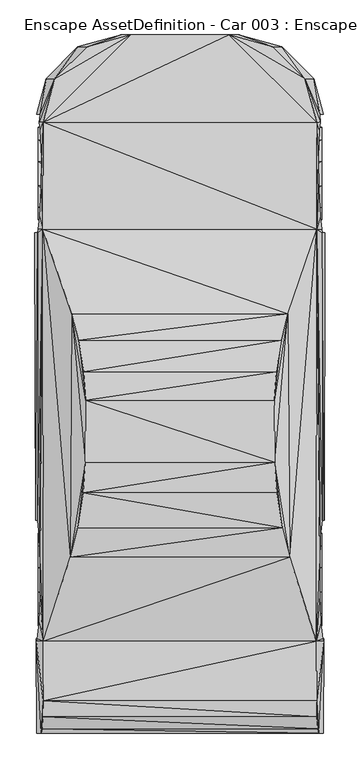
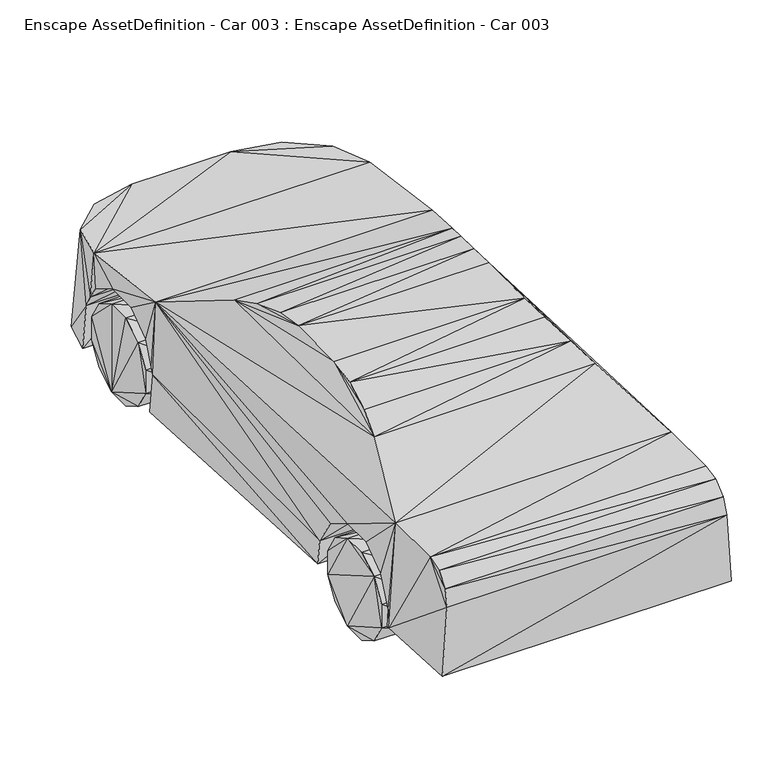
"""IFC4 building model written with IfcOpenShell, lengths in millimetres: geographic element geometry, Enscape AssetDefinition - Car 003 : Enscape AssetDefinition - Car 003."""

from ifc_helpers import new_model, si_unit, origin, place, context, project, spatial, faceted_brep, source, transform, mapped, element, save


def enscape_assetdefinition_car_003_enscape_assetdefinition_car_cb408bfd(model_context):
    return source(origin(), model_context, "Body", "Brep", [
        faceted_brep([(975.2274752, -1140.8143044, 234.1980785), (975.2274752, -1543.1392193, 636.5229487), (975.2274752, -1690.400362, 86.9370252), (975.2274752, -1373.0965853, 636.5229487), (731.5111756, -1543.1392193, 636.5229487), (975.2274752, -1690.4002428, 551.5017509), (731.5111756, -1690.4002428, 551.5017509), (975.2274752, -1225.8355618, 551.5017509), (731.5111756, -1373.0965853, 636.5230083), (731.5111756, -1373.0969429, 1.9156635), (731.5111756, -1225.8355618, 551.5017509), (731.5111756, -1775.4215002, 404.240638), (975.2274752, -1775.4215002, 404.2406082), (975.2274752, -1775.4215002, 234.1981977), (731.5111756, -1775.4215002, 234.1981977), (731.5111756, -1690.400362, 86.9370401), (975.2274752, -1543.1393385, 1.9157236), (731.5111756, -1543.1393385, 1.9157436), (975.2274752, -1373.0969429, 1.9156536), (975.2274752, -1225.835681, 86.9367719), (731.5111756, -1225.835681, 86.936757), (975.2274752, -1140.8140659, 404.2405784), (731.5111756, -1140.8140659, 404.2406082), (731.5111756, -1140.8143044, 234.1980785)], [[[0, 1, 2]], [[1, 3, 4]], [[5, 1, 6]], [[0, 3, 1]], [[2, 1, 5]], [[6, 1, 4]], [[3, 7, 8]], [[0, 7, 3]], [[4, 3, 8]], [[9, 4, 10]], [[9, 6, 4]], [[10, 4, 8]], [[9, 11, 6]], [[11, 5, 6]], [[12, 5, 11]], [[13, 5, 12]], [[13, 2, 5]], [[9, 14, 11]], [[14, 12, 11]], [[13, 12, 14]], [[2, 13, 15]], [[15, 13, 14]], [[16, 2, 17]], [[18, 2, 16]], [[0, 2, 18]], [[17, 2, 15]], [[15, 9, 17]], [[9, 15, 14]], [[9, 16, 17]], [[18, 16, 9]], [[19, 18, 20]], [[0, 18, 19]], [[20, 18, 9]], [[21, 0, 22]], [[0, 19, 23]], [[7, 0, 21]], [[22, 0, 23]], [[23, 19, 20]], [[9, 23, 20]], [[9, 10, 23]], [[23, 10, 22]], [[10, 21, 22]], [[7, 21, 10]], [[8, 7, 10]]]),
        faceted_brep([(975.2271771, 1648.183465, 404.240638), (975.2271771, 1098.5975266, 551.5017509), (975.2272367, 1013.5762691, 234.1981977), (975.2271771, 1245.8585501, 636.523068), (731.5108776, 1098.5975266, 551.5017509), (975.2271771, 1013.5761499, 404.2407274), (731.5108776, 1013.5761499, 404.2407274), (975.2271771, 1415.9011841, 636.523068), (731.5108776, 1245.8585501, 636.523068), (731.5109968, 1013.5762691, 234.1981828), (731.5108776, 1648.183465, 404.240638), (731.5109968, 1415.9008265, 1.9157036), (731.5109968, 1245.8584309, 1.9157836), (731.5110564, 1098.5971689, 86.9370475), (731.5108776, 1415.9011841, 636.523068), (975.2271771, 1563.1623268, 551.5018106), (731.5108776, 1563.1623268, 551.5018106), (975.2272367, 1648.1835842, 234.198153), (975.2272367, 1415.9008265, 1.9157236), (975.2272367, 1563.1620884, 86.9368315), (731.5109968, 1648.1835842, 234.1981381), (975.2272367, 1245.8584309, 1.9157635), (731.5109968, 1563.1620884, 86.9368091), (975.2272964, 1098.5971689, 86.9370773)], [[[0, 1, 2]], [[1, 3, 4]], [[5, 1, 6]], [[0, 3, 1]], [[2, 1, 5]], [[6, 1, 4]], [[3, 7, 8]], [[7, 3, 0]], [[4, 3, 8]], [[4, 9, 6]], [[9, 4, 8]], [[9, 5, 6]], [[2, 5, 9]], [[10, 9, 8]], [[9, 11, 12]], [[9, 12, 13]], [[10, 11, 9]], [[13, 2, 9]], [[10, 8, 14]], [[8, 7, 14]], [[7, 15, 14]], [[14, 16, 10]], [[14, 15, 16]], [[15, 0, 16]], [[7, 0, 15]], [[16, 0, 10]], [[0, 17, 10]], [[18, 17, 0]], [[2, 18, 0]], [[17, 19, 20]], [[17, 18, 19]], [[10, 17, 20]], [[18, 21, 11]], [[19, 18, 22]], [[2, 21, 18]], [[22, 18, 11]], [[20, 19, 22]], [[11, 10, 20]], [[11, 20, 22]], [[11, 21, 12]], [[21, 23, 12]], [[21, 2, 23]], [[23, 2, 13]], [[12, 23, 13]]]),
        faceted_brep([(-975.2271175, -1690.4000044, 551.5016913), (-975.2271175, -1140.8143044, 234.1980785), (-975.2271771, -1373.0969429, 1.9156536), (-731.5108776, -1140.8143044, 234.1980785), (-731.5108776, -1140.8143044, 404.2406082), (-975.2271771, -1373.0965853, 636.5229487), (-975.2271771, -1140.8143044, 404.2405784), (-975.2271771, -1225.835681, 86.9367719), (-731.5108776, -1225.8355618, 551.5017509), (-975.2271175, -1225.8354425, 551.5017509), (-731.5108776, -1373.0965853, 636.5230083), (-731.5108776, -1543.1392193, 636.5229487), (-975.2271771, -1543.1392193, 636.5229487), (-731.5108776, -1690.4000044, 551.5016913), (-731.5108776, -1373.0969429, 1.9156635), (-731.5108776, -1775.4215002, 404.240638), (-731.5108776, -1775.4215002, 234.1981977), (-731.5108776, -1690.400362, 86.9370401), (-975.2271175, -1775.4215002, 234.1981977), (-975.2271771, -1775.4215002, 404.2406082), (-975.2271175, -1690.400362, 86.9370252), (-731.5108776, -1543.1393385, 1.9157436), (-731.5108776, -1225.835681, 86.936757), (-975.2271771, -1543.1393385, 1.9157236)], [[[0, 1, 2]], [[3, 1, 4]], [[5, 6, 1]], [[2, 1, 7]], [[1, 0, 5]], [[4, 1, 6]], [[3, 7, 1]], [[4, 6, 8]], [[8, 3, 4]], [[5, 9, 6]], [[8, 6, 9]], [[10, 5, 11]], [[5, 0, 12]], [[10, 9, 5]], [[11, 5, 12]], [[8, 9, 10]], [[13, 8, 10]], [[13, 3, 8]], [[13, 10, 11]], [[11, 12, 13]], [[13, 12, 0]], [[14, 3, 13]], [[13, 0, 15]], [[16, 13, 15]], [[16, 17, 13]], [[14, 13, 17]], [[0, 18, 19]], [[0, 2, 18]], [[15, 0, 19]], [[15, 19, 16]], [[16, 18, 17]], [[16, 19, 18]], [[17, 20, 21]], [[14, 17, 21]], [[17, 18, 20]], [[2, 20, 18]], [[14, 2, 22]], [[20, 2, 23]], [[14, 23, 2]], [[22, 2, 7]], [[21, 20, 23]], [[21, 23, 14]], [[3, 14, 22]], [[22, 7, 3]]]),
        faceted_brep([(-975.2268791, 1648.183465, 404.240638), (-975.2269387, 1415.9008265, 1.9157236), (-975.2268791, 1415.9011841, 636.523068), (-731.5106392, 1415.9008265, 1.9157036), (-731.5106392, 1563.1620884, 86.9368091), (-975.2269387, 1648.1835842, 234.198153), (-975.2269387, 1563.1620884, 86.9368315), (-975.2269387, 1098.5972881, 86.9370997), (-975.2269387, 1245.8584309, 1.9157635), (-975.2269387, 1013.5762691, 234.1981977), (-975.2268791, 1098.5975266, 551.5017509), (-975.2268791, 1245.8585501, 636.523068), (-731.5106392, 1648.1835842, 234.1981381), (-731.5105796, 1648.183465, 404.240638), (-731.5106392, 1013.5762691, 234.1981828), (-731.5105796, 1563.1623268, 551.5018106), (-731.5105796, 1415.9011841, 636.523068), (-731.5105796, 1245.8585501, 636.523068), (-975.2268791, 1563.1623268, 551.5018106), (-731.5105796, 1098.5975266, 551.5017509), (-731.5105796, 1013.5761499, 404.2407274), (-975.2268791, 1013.5761499, 404.2407274), (-731.5107584, 1098.5971689, 86.9370475), (-731.5106392, 1245.8584309, 1.9157836)], [[[0, 1, 2]], [[3, 1, 4]], [[1, 0, 5]], [[1, 5, 6]], [[7, 1, 8]], [[1, 7, 9]], [[10, 1, 9]], [[1, 10, 11]], [[1, 11, 2]], [[3, 8, 1]], [[4, 1, 6]], [[4, 6, 12]], [[12, 6, 5]], [[12, 5, 13]], [[13, 5, 0]], [[4, 12, 13]], [[13, 14, 3]], [[13, 0, 15]], [[16, 13, 15]], [[16, 17, 13]], [[13, 17, 14]], [[13, 3, 4]], [[2, 18, 0]], [[15, 0, 18]], [[15, 18, 16]], [[16, 2, 17]], [[16, 18, 2]], [[17, 11, 19]], [[14, 17, 19]], [[17, 2, 11]], [[19, 10, 20]], [[14, 19, 20]], [[19, 11, 10]], [[10, 9, 21]], [[20, 10, 21]], [[20, 21, 14]], [[14, 9, 22]], [[23, 14, 22]], [[14, 23, 3]], [[14, 21, 9]], [[22, 9, 7]], [[22, 7, 23]], [[23, 8, 3]], [[23, 7, 8]]]),
        faceted_brep([(948.2568502, -2483.6790562, 933.5300922), (-948.2568502, -2483.6790562, 933.5300922), (955.2394748, -2513.566494, 821.9874501), (-941.2916303, -2290.4803753, 1045.0736284), (-943.1515336, -2402.0237923, 1015.1853561), (-955.239594, -2513.566494, 821.9874501), (941.2915707, -2290.4803753, 1045.0736284), (943.151474, -2402.0237923, 1015.1853561), (-939.3194914, -1883.900404, 1043.8939333), (939.3194914, -1883.900404, 1043.8939333), (-988.7120128, -1883.8623762, 302.4596572), (-985.8146906, -2513.5667324, 333.8015079), (-988.9909625, -1865.6324148, 301.5657961), (-696.4810491, -1883.8630915, 302.4203777), (-981.0096025, -1865.6330109, 423.1972098), (985.814631, -2513.5667324, 333.8015079), (-696.7505813, -1865.6332493, 301.5253842), (696.4810491, -1883.8630915, 302.4203777), (-968.4197903, -1756.4399242, 612.300694), (-688.9508367, -1865.6334877, 423.1696725), (-960.8691931, -1567.3112869, 721.4837074), (-676.5244007, -1756.4402819, 612.2851372), (-669.0510511, -1567.3116446, 721.4736342), (-960.3809714, -1348.92416, 721.4909196), (754.8474669, -1307.0042133, 1250.2430677), (-754.8474669, -1307.0042133, 1250.2430677), (-943.1803226, 947.3187327, 924.7220755), (-967.0860767, -1159.7949266, 612.3203635), (-668.5332656, -1348.9243984, 721.4785218), (-675.1098633, -1159.7952843, 612.2986078), (-699.3075609, -1050.6024361, 260.8771622), (-979.6996713, -1050.6011248, 423.2062995), (-687.5303984, -1050.6017208, 423.1710136), (-991.6298985, -1050.6014824, 260.9218061), (-978.8589478, 923.3636856, 423.1477976), (-998.021543, 923.3628511, 162.4842286), (-706.618607, 923.3570695, 162.5036895), (-975.9566188, 947.2830296, 464.5919204), (-687.6385808, 923.3682156, 423.1785238), (-964.0583396, 1032.558322, 612.2977138), (-684.4932437, 947.2860694, 464.6047652), (-672.7261543, 1032.56464, 612.3194695), (-662.5322104, 1221.69137, 721.5046287), (-673.8102436, 1682.2595596, 520.1782584), (-953.9869428, 1221.6870785, 721.4912176), (-951.9435763, 1440.0748014, 721.4971781), (-659.9434018, 1440.0709867, 721.4729786), (-959.6166015, 1629.1998625, 612.2701168), (-941.2438869, 1682.2446585, 828.9456367), (-666.7935848, 1629.1793585, 612.1945977), (-967.1986699, 1682.2850704, 520.2893019), (-860.697329, 1982.2484255, 790.3592587), (-960.4291916, 1738.4309769, 423.1719673), (-986.8299365, 1738.443017, 121.9324023), (-670.7378626, 1738.4296656, 423.3030379), (-921.8106866, 1982.301116, 109.7544506), (-695.1063275, 1738.3975983, 121.9252124), (-401.1109769, 2282.2334766, 94.8155075), (694.8527098, 1738.3933067, 121.9079345), (-702.064991, 2201.7884254, 98.8128334), (-640.052855, 2201.9584179, 762.0948553), (-338.6172354, 2282.271862, 751.742363), (401.1110067, 2282.2337151, 94.8155075), (338.6172652, 2282.271862, 751.7423034), (640.052855, 2201.9584179, 762.0948553), (702.0650506, 2201.7889023, 98.8128483), (941.2437677, 1682.2446585, 828.9456367), (860.6973886, 1982.2484255, 790.3592587), (943.1803823, 947.3187327, 924.7220755), (951.9435763, 1440.0748014, 721.4971781), (967.0290947, 1682.2812557, 520.2760696), (959.6166015, 1629.1997433, 612.2701168), (659.6528292, 1440.0655031, 721.4528918), (662.3668075, 1221.6889858, 721.4936614), (953.9869428, 1221.6870785, 721.4912176), (666.4326191, 1629.1704178, 612.1683121), (670.3791022, 1738.4269238, 423.2805967), (960.4291916, 1738.4309769, 423.1719673), (672.7072597, 1032.5649977, 612.318635), (687.7481341, 923.3705401, 423.1863916), (964.0582204, 1032.558322, 612.2977138), (975.9689569, 947.2833276, 464.5930827), (978.8589478, 923.363626, 423.1478572), (706.8188787, 923.3599305, 162.5169963), (991.6298985, -1050.6014824, 260.9218061), (998.021543, 923.3628511, 162.4842286), (979.6996713, -1050.6011248, 423.2062995), (699.3075609, -1050.6024361, 260.8771622), (687.5303984, -1050.6017208, 423.1710136), (675.1099825, -1159.7952843, 612.2986078), (967.0860767, -1159.7949266, 612.3203635), (668.5332656, -1348.9243984, 721.4785218), (696.7506409, -1865.6332493, 301.5253842), (960.3809714, -1348.92416, 721.4909196), (669.0510511, -1567.3116446, 721.4736342), (960.8691931, -1567.3112869, 721.4837074), (676.5244007, -1756.4402819, 612.2851372), (968.4197903, -1756.4399242, 612.3006344), (988.7120128, -1883.8623762, 302.4596572), (981.0096025, -1865.6330109, 423.1972098), (688.9508963, -1865.6333685, 423.1696725), (988.9909625, -1865.6324148, 301.5657961), (704.0087581, -1103.1991243, 1307.0282936), (743.921876, 365.3561473, 1219.1159725), (651.8998742, -652.9420614, 1362.8393412), (-743.921876, 365.3561473, 1219.1159725), (-696.2227225, 183.8901192, 1289.6815538), (-649.7042179, -226.7574221, 1361.1540794), (-651.8998742, -652.942121, 1362.839222), (696.2226033, 183.8901192, 1289.6815538), (-661.7367268, -32.8384936, 1341.67099), (661.7366672, -32.8384936, 1341.67099), (649.7042179, -226.7574668, 1361.1540794), (-666.3271785, -863.7958765, 1348.2415676), (-704.0087581, -1103.1991243, 1307.0281744), (666.3271785, -863.7958765, 1348.2415676), (986.8299365, 1738.443017, 121.9323948), (921.8106866, 1982.301116, 109.7544506)], [[[0, 1, 2]], [[3, 1, 4]], [[2, 1, 5]], [[0, 4, 1]], [[3, 5, 1]], [[0, 2, 6]], [[7, 4, 0]], [[0, 6, 7]], [[7, 3, 4]], [[6, 3, 7]], [[8, 3, 9]], [[9, 3, 6]], [[3, 8, 10]], [[5, 3, 10]], [[5, 11, 2]], [[5, 10, 11]], [[10, 12, 13]], [[14, 12, 10]], [[14, 10, 8]], [[13, 11, 10]], [[2, 11, 15]], [[13, 15, 11]], [[13, 12, 16]], [[17, 13, 16]], [[13, 17, 15]], [[12, 14, 16]], [[14, 18, 19]], [[8, 18, 14]], [[16, 14, 19]], [[18, 20, 21]], [[8, 20, 18]], [[19, 18, 21]], [[21, 16, 19]], [[21, 20, 22]], [[21, 22, 16]], [[8, 23, 20]], [[20, 23, 22]], [[9, 24, 8]], [[8, 24, 25]], [[25, 26, 8]], [[23, 8, 26]], [[23, 27, 28]], [[27, 23, 26]], [[22, 23, 28]], [[16, 22, 28]], [[28, 27, 29]], [[28, 30, 16]], [[30, 28, 29]], [[27, 31, 29]], [[26, 31, 27]], [[30, 29, 32]], [[29, 31, 32]], [[31, 33, 32]], [[31, 34, 33]], [[31, 26, 34]], [[32, 33, 30]], [[33, 34, 35]], [[36, 30, 33]], [[36, 33, 35]], [[35, 34, 36]], [[34, 37, 38]], [[34, 26, 37]], [[36, 34, 38]], [[37, 39, 40]], [[26, 39, 37]], [[38, 37, 40]], [[40, 36, 38]], [[40, 39, 41]], [[42, 40, 41]], [[43, 36, 40]], [[43, 40, 42]], [[39, 44, 41]], [[26, 44, 39]], [[41, 44, 42]], [[44, 45, 42]], [[43, 42, 46]], [[42, 45, 46]], [[26, 45, 44]], [[45, 47, 46]], [[45, 48, 47]], [[26, 48, 45]], [[46, 47, 49]], [[43, 46, 49]], [[47, 50, 49]], [[47, 48, 50]], [[49, 50, 43]], [[51, 52, 50]], [[50, 52, 43]], [[51, 50, 48]], [[52, 53, 54]], [[52, 51, 55]], [[52, 55, 53]], [[43, 52, 54]], [[54, 53, 56]], [[55, 56, 53]], [[56, 43, 54]], [[43, 56, 36]], [[57, 58, 56]], [[58, 36, 56]], [[59, 56, 55]], [[57, 56, 59]], [[55, 51, 59]], [[59, 60, 57]], [[59, 51, 60]], [[61, 62, 57]], [[57, 60, 61]], [[58, 57, 62]], [[51, 61, 60]], [[63, 62, 61]], [[51, 48, 61]], [[48, 63, 61]], [[63, 64, 62]], [[62, 64, 65]], [[58, 62, 65]], [[63, 66, 67]], [[63, 48, 66]], [[63, 67, 64]], [[68, 48, 26]], [[48, 68, 66]], [[68, 69, 66]], [[70, 67, 66]], [[66, 71, 70]], [[66, 69, 71]], [[72, 69, 73]], [[69, 68, 74]], [[73, 69, 74]], [[72, 71, 69]], [[75, 71, 72]], [[75, 70, 71]], [[75, 76, 70]], [[77, 67, 70]], [[76, 77, 70]], [[75, 78, 79]], [[79, 76, 75]], [[73, 75, 72]], [[75, 73, 78]], [[73, 74, 78]], [[74, 68, 80]], [[78, 74, 80]], [[78, 81, 79]], [[81, 78, 80]], [[79, 82, 83]], [[76, 79, 83]], [[79, 81, 82]], [[80, 68, 81]], [[68, 82, 81]], [[82, 84, 85]], [[86, 82, 68]], [[82, 86, 84]], [[83, 82, 85]], [[87, 84, 88]], [[88, 84, 86]], [[83, 85, 84]], [[83, 84, 87]], [[88, 86, 89]], [[68, 90, 86]], [[89, 86, 90]], [[89, 87, 88]], [[89, 90, 91]], [[89, 91, 87]], [[30, 87, 92]], [[87, 30, 36]], [[36, 83, 87]], [[91, 92, 87]], [[91, 93, 94]], [[91, 90, 93]], [[92, 91, 94]], [[93, 90, 68]], [[93, 9, 95]], [[93, 68, 9]], [[94, 93, 95]], [[94, 95, 96]], [[92, 94, 96]], [[95, 9, 97]], [[96, 95, 97]], [[6, 98, 9]], [[24, 9, 68]], [[99, 9, 98]], [[97, 9, 99]], [[96, 97, 100]], [[100, 97, 99]], [[96, 100, 92]], [[100, 99, 92]], [[99, 98, 101]], [[92, 99, 101]], [[92, 101, 17]], [[92, 16, 30]], [[92, 17, 16]], [[17, 101, 98]], [[15, 17, 98]], [[2, 15, 98]], [[6, 2, 98]], [[24, 102, 25]], [[24, 103, 104]], [[24, 68, 103]], [[104, 102, 24]], [[68, 26, 103]], [[103, 26, 105]], [[25, 105, 26]], [[106, 105, 107]], [[106, 103, 105]], [[108, 105, 25]], [[105, 108, 107]], [[109, 103, 106]], [[110, 109, 106]], [[106, 107, 110]], [[111, 109, 110]], [[112, 103, 109]], [[112, 109, 111]], [[107, 111, 110]], [[112, 111, 107]], [[112, 107, 104]], [[104, 107, 108]], [[113, 104, 108]], [[108, 25, 114]], [[108, 114, 113]], [[115, 113, 102]], [[115, 104, 113]], [[102, 113, 114]], [[25, 102, 114]], [[102, 104, 115]], [[103, 112, 104]], [[58, 83, 36]], [[76, 83, 58]], [[58, 116, 76]], [[58, 117, 116]], [[58, 65, 117]], [[76, 116, 77]], [[117, 77, 116]], [[67, 77, 117]], [[65, 67, 117]], [[64, 67, 65]]]),
    ])


if __name__ == "__main__":
    model = new_model("IFC4")
    model_context = context("Model", 3, world=origin())
    ifc_project = project(units=[si_unit("LENGTHUNIT", "METRE", prefix="MILLI")], contexts=[model_context])
    site = spatial("IfcSite", under=ifc_project)
    building = spatial("IfcBuilding", under=site)
    placement = place(None, origin())
    enscape_assetdefinition_car_003_enscape_assetdefinition_car_shape = enscape_assetdefinition_car_003_enscape_assetdefinition_car_cb408bfd(model_context)
    element("IfcGeographicElement", 1, ObjectType="Enscape AssetDefinition - Car 003 : Enscape AssetDefinition - Car 003", at=placement, inside=building, context=model_context, shape_type="MappedRepresentation", body=[
        mapped(enscape_assetdefinition_car_003_enscape_assetdefinition_car_shape, transform((0.0, 0.0, 0.0), x_axis=(1.0, 0.0, 0.0), y_axis=(0.0, 1.0, 0.0), z_axis=(0.0, 0.0, 1.0))),
    ])
    save(model, "model.ifc")
